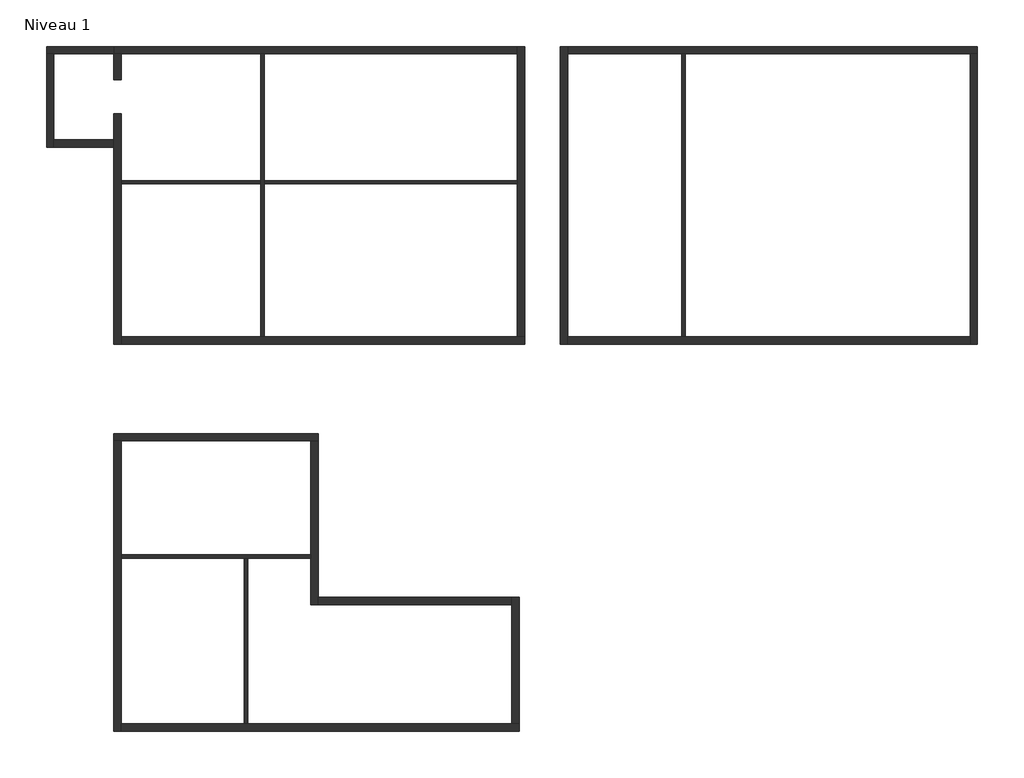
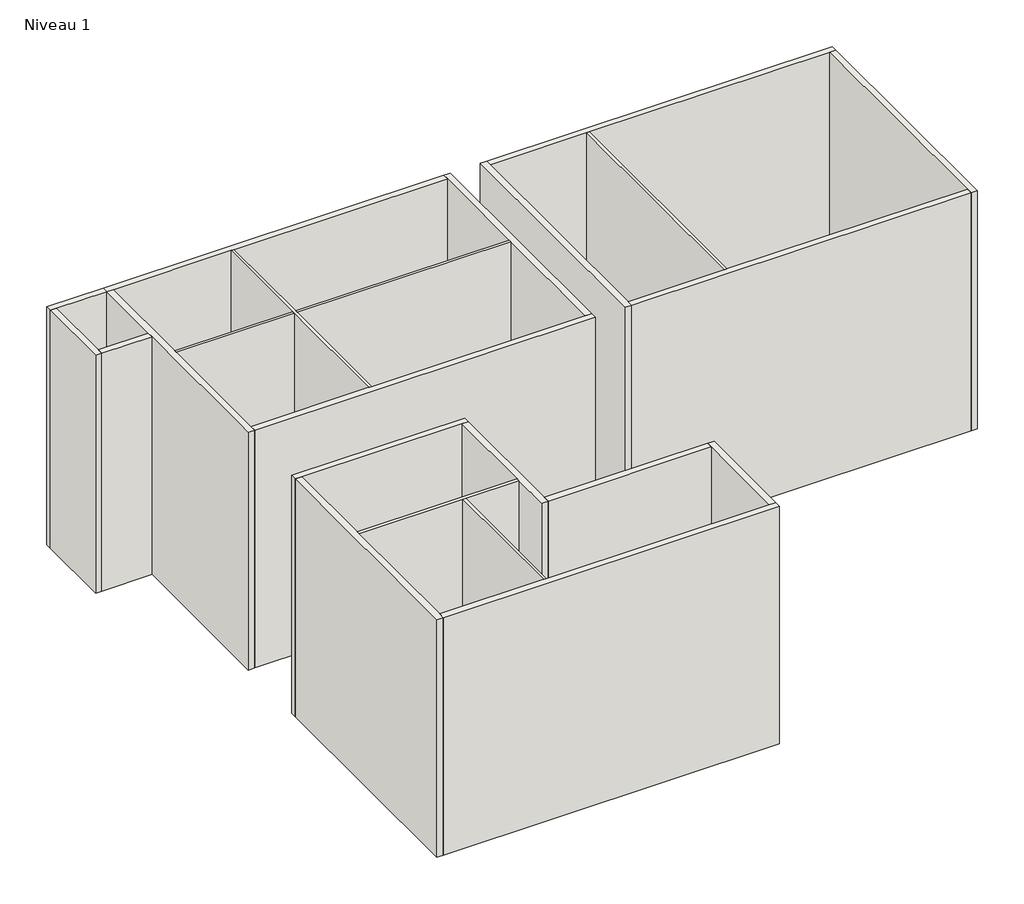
# One storey: 22 walls.
"""IFC4 building model written with IfcOpenShell, lengths in millimetres."""

from ifc_helpers import new_model, si_unit, origin, origin_with_axes, place, context, project, spatial, polyline, outline, extrude, faceted_brep, element, save

model = new_model("IFC4")

# Units and contexts
model_context = context("Model", 3, world=origin())
ifc_project = project(units=[si_unit("LENGTHUNIT", "METRE", prefix="MILLI")], contexts=[model_context])

# Site, building, storey
site = spatial("IfcSite", under=ifc_project)
building = spatial("IfcBuilding", under=site)
storey = spatial("IfcBuildingStorey", under=building, Name="Niveau 1", Elevation=0.0)

# Walls
placement = place(None, origin())
element("IfcWall", 1, ObjectType="Générique - 200 mm", at=placement, inside=storey, context=model_context, shape_type="Brep", body=[
    faceted_brep([(-11123.7969213, 1992.9831077, 0.0), (-10923.7969213, 1992.9831077, 0.0), (-7168.7969213, 1992.9831077, 0.0), (-7078.7969213, 1992.9831077, 0.0), (-278.7969213, 1992.9831077, 0.0), (-278.7969213, 1992.9831077, 8000.0), (-7078.7969213, 1992.9831077, 8000.0), (-7168.7969213, 1992.9831077, 8000.0), (-10923.7969213, 1992.9831077, 8000.0), (-11123.7969213, 1992.9831077, 8000.0), (-11123.7969213, 2192.9831077, 0.0), (-11123.7969213, 2192.9831077, 8000.0), (-278.7969213, 2192.9831077, 8000.0), (-278.7969213, 2192.9831077, 0.0)], [[[0, 1, 2, 3, 4, 5, 6, 7, 8, 9]], [[10, 11, 12, 13]], [[4, 3, 2, 1, 0, 10, 13]], [[9, 8, 7, 6, 5, 12, 11]], [[0, 9, 11, 10]], [[5, 4, 13, 12]]]),
])
element("IfcWall", 2, ObjectType="Générique - 200 mm", at=placement, inside=storey, context=model_context, shape_type="Brep", body=[
    faceted_brep([(-10923.7969213, 1300.4831077, 2134.0), (-10923.7969213, 1300.4831077, 0.0), (-10923.7969213, 1992.9831077, 0.0), (-10923.7969213, 1992.9831077, 8000.0), (-10923.7969213, -1407.0168923, 8000.0), (-10923.7969213, -1497.0168923, 8000.0), (-10923.7969213, -5607.0168923, 8000.0), (-10923.7969213, -5807.0168923, 8000.0), (-10923.7969213, -5807.0168923, 0.0), (-10923.7969213, -5607.0168923, 0.0), (-10923.7969213, -1497.0168923, 0.0), (-10923.7969213, -1407.0168923, 0.0), (-10923.7969213, 385.4831077, 0.0), (-10923.7969213, 385.4831077, 2134.0), (-11123.7969213, 1992.9831077, 0.0), (-11123.7969213, 1300.4831077, 0.0), (-11123.7969213, 1300.4831077, 2134.0), (-11123.7969213, 385.4831077, 2134.0), (-11123.7969213, 385.4831077, 0.0), (-11123.7969213, -307.0168923, 0.0), (-11123.7969213, -507.0168923, 0.0), (-11123.7969213, -5807.0168923, 0.0), (-11123.7969213, -5807.0168923, 8000.0), (-11123.7969213, -507.0168923, 8000.0), (-11123.7969213, -307.0168923, 8000.0), (-11123.7969213, 1992.9831077, 8000.0)], [[[0, 1, 2, 3, 4, 5, 6, 7, 8, 9, 10, 11, 12, 13]], [[14, 15, 16, 17, 18, 19, 20, 21, 22, 23, 24, 25]], [[2, 1, 15, 14]], [[12, 11, 10, 9, 8, 21, 20, 19, 18]], [[7, 6, 5, 4, 3, 25, 24, 23, 22]], [[8, 7, 22, 21]], [[3, 2, 14, 25]], [[18, 17, 13, 12]], [[16, 15, 1, 0]], [[17, 16, 0, 13]]]),
])
element("IfcWall", 3, ObjectType="Générique - 200 mm", at=placement, inside=storey, context=model_context, shape_type="Brep", body=[
    faceted_brep([(-78.7969213, -5607.0168923, 0.0), (-278.7969213, -5607.0168923, 0.0), (-7078.7969213, -5607.0168923, 0.0), (-7168.7969213, -5607.0168923, 0.0), (-10923.7969213, -5607.0168923, 0.0), (-10923.7969213, -5607.0168923, 8000.0), (-7168.7969213, -5607.0168923, 8000.0), (-7078.7969213, -5607.0168923, 8000.0), (-278.7969213, -5607.0168923, 8000.0), (-78.7969213, -5607.0168923, 8000.0), (-78.7969213, -5807.0168923, 0.0), (-78.7969213, -5807.0168923, 8000.0), (-10923.7969213, -5807.0168923, 8000.0), (-10923.7969213, -5807.0168923, 0.0)], [[[0, 1, 2, 3, 4, 5, 6, 7, 8, 9]], [[10, 11, 12, 13]], [[4, 3, 2, 1, 0, 10, 13]], [[9, 8, 7, 6, 5, 12, 11]], [[0, 9, 11, 10]], [[5, 4, 13, 12]]]),
])
element("IfcWall", 4, ObjectType="Générique - 200 mm", at=placement, inside=storey, context=model_context, shape_type="Brep", body=[
    faceted_brep([(-278.7969213, 2192.9831077, 0.0), (-278.7969213, 1992.9831077, 0.0), (-278.7969213, -1407.0168923, 0.0), (-278.7969213, -1497.0168923, 0.0), (-278.7969213, -5607.0168923, 0.0), (-278.7969213, -5607.0168923, 8000.0), (-278.7969213, -1497.0168923, 8000.0), (-278.7969213, -1407.0168923, 8000.0), (-278.7969213, 1992.9831077, 8000.0), (-278.7969213, 2192.9831077, 8000.0), (-78.7969213, 2192.9831077, 0.0), (-78.7969213, 2192.9831077, 8000.0), (-78.7969213, -5607.0168923, 8000.0), (-78.7969213, -5607.0168923, 0.0)], [[[0, 1, 2, 3, 4, 5, 6, 7, 8, 9]], [[10, 11, 12, 13]], [[4, 3, 2, 1, 0, 10, 13]], [[9, 8, 7, 6, 5, 12, 11]], [[0, 9, 11, 10]], [[5, 4, 13, 12]]]),
])
element("IfcWall", 5, ObjectType="Générique - Brique 90\xa0mm", at=placement, inside=storey, context=model_context, shape_type="Brep", body=[
    faceted_brep([(-7168.7969213, 1992.9831077, 0.0), (-7168.7969213, -1407.0168923, 0.0), (-7168.7969213, -1497.0168923, 0.0), (-7168.7969213, -5607.0168923, 0.0), (-7168.7969213, -5607.0168923, 8000.0), (-7168.7969213, -1497.0168923, 8000.0), (-7168.7969213, -1407.0168923, 8000.0), (-7168.7969213, 1992.9831077, 8000.0), (-7078.7969213, 1992.9831077, 0.0), (-7078.7969213, 1992.9831077, 8000.0), (-7078.7969213, -1407.0168923, 8000.0), (-7078.7969213, -1497.0168923, 8000.0), (-7078.7969213, -5607.0168923, 8000.0), (-7078.7969213, -5607.0168923, 0.0), (-7078.7969213, -1497.0168923, 0.0), (-7078.7969213, -1407.0168923, 0.0)], [[[0, 1, 2, 3, 4, 5, 6, 7]], [[8, 9, 10, 11, 12, 13, 14, 15]], [[3, 2, 1, 0, 8, 15, 14, 13]], [[7, 6, 5, 4, 12, 11, 10, 9]], [[4, 3, 13, 12]], [[0, 7, 9, 8]]]),
])
element("IfcWall", 6, ObjectType="Générique - Brique 90\xa0mm", at=placement, inside=storey, context=model_context, shape_type="SweptSolid", body=[
    extrude(outline(polyline([(-278.7969213, -1407.0168923), (-278.7969213, -1497.0168923), (-7078.7969213, -1497.0168923), (-7078.7969213, -1407.0168923), (-278.7969213, -1407.0168923)])), origin_with_axes(), (0.0, 0.0, 1.0), 8000.0),
    extrude(outline(polyline([(-10923.7969213, -1497.0168923), (-10923.7969213, -1407.0168923), (-7168.7969213, -1407.0168923), (-7168.7969213, -1497.0168923), (-10923.7969213, -1497.0168923)])), origin_with_axes(), (0.0, 0.0, 1.0), 8000.0),
])
element("IfcWall", 7, ObjectType="Générique - 200 mm", at=placement, inside=storey, context=model_context, shape_type="Brep", body=[
    faceted_brep([(-11123.7969213, -8402.2168923, 0.0), (-10923.7969213, -8402.2168923, 0.0), (-5823.7969213, -8402.2168923, 0.0), (-5623.7969213, -8402.2168923, 0.0), (-5623.7969213, -8402.2168923, 8000.0), (-5823.7969213, -8402.2168923, 8000.0), (-10923.7969213, -8402.2168923, 8000.0), (-11123.7969213, -8402.2168923, 8000.0), (-11123.7969213, -8202.2168923, 0.0), (-11123.7969213, -8202.2168923, 8000.0), (-5623.7969213, -8202.2168923, 8000.0), (-5623.7969213, -8202.2168923, 0.0)], [[[0, 1, 2, 3, 4, 5, 6, 7]], [[8, 9, 10, 11]], [[3, 2, 1, 0, 8, 11]], [[7, 6, 5, 4, 10, 9]], [[0, 7, 9, 8]], [[4, 3, 11, 10]]]),
])
element("IfcWall", 8, ObjectType="Générique - 200 mm", at=placement, inside=storey, context=model_context, shape_type="Brep", body=[
    faceted_brep([(-10923.7969213, -16202.2168923, 0.0), (-10923.7969213, -16002.2168923, 0.0), (-10923.7969213, -11547.2168923, 0.0), (-10923.7969213, -11457.2168923, 0.0), (-10923.7969213, -8402.2168923, 0.0), (-10923.7969213, -8402.2168923, 8000.0), (-10923.7969213, -11457.2168923, 8000.0), (-10923.7969213, -11547.2168923, 8000.0), (-10923.7969213, -16002.2168923, 8000.0), (-10923.7969213, -16202.2168923, 8000.0), (-11123.7969213, -16202.2168923, 0.0), (-11123.7969213, -16202.2168923, 8000.0), (-11123.7969213, -8402.2168923, 8000.0), (-11123.7969213, -8402.2168923, 0.0)], [[[0, 1, 2, 3, 4, 5, 6, 7, 8, 9]], [[10, 11, 12, 13]], [[4, 3, 2, 1, 0, 10, 13]], [[9, 8, 7, 6, 5, 12, 11]], [[0, 9, 11, 10]], [[5, 4, 13, 12]]]),
])
element("IfcWall", 9, ObjectType="Générique - 200 mm", at=placement, inside=storey, context=model_context, shape_type="Brep", body=[
    faceted_brep([(-223.7969213, -16002.2168923, 0.0), (-423.7969213, -16002.2168923, 0.0), (-7523.7969213, -16002.2168923, 0.0), (-7613.7969213, -16002.2168923, 0.0), (-10923.7969213, -16002.2168923, 0.0), (-10923.7969213, -16002.2168923, 8000.0), (-7613.7969213, -16002.2168923, 8000.0), (-7523.7969213, -16002.2168923, 8000.0), (-423.7969213, -16002.2168923, 8000.0), (-223.7969213, -16002.2168923, 8000.0), (-223.7969213, -16202.2168923, 0.0), (-223.7969213, -16202.2168923, 8000.0), (-10923.7969213, -16202.2168923, 8000.0), (-10923.7969213, -16202.2168923, 0.0)], [[[0, 1, 2, 3, 4, 5, 6, 7, 8, 9]], [[10, 11, 12, 13]], [[4, 3, 2, 1, 0, 10, 13]], [[9, 8, 7, 6, 5, 12, 11]], [[0, 9, 11, 10]], [[5, 4, 13, 12]]]),
])
element("IfcWall", 10, ObjectType="Générique - 200 mm", at=placement, inside=storey, context=model_context, shape_type="Brep", body=[
    faceted_brep([(-423.7969213, -12602.2168923, 0.0), (-423.7969213, -12802.2168923, 0.0), (-423.7969213, -16002.2168923, 0.0), (-423.7969213, -16002.2168923, 8000.0), (-423.7969213, -12802.2168923, 8000.0), (-423.7969213, -12602.2168923, 8000.0), (-223.7969213, -12602.2168923, 0.0), (-223.7969213, -12602.2168923, 8000.0), (-223.7969213, -16002.2168923, 8000.0), (-223.7969213, -16002.2168923, 0.0)], [[[0, 1, 2, 3, 4, 5]], [[6, 7, 8, 9]], [[2, 1, 0, 6, 9]], [[5, 4, 3, 8, 7]], [[3, 2, 9, 8]], [[0, 5, 7, 6]]]),
])
element("IfcWall", 11, ObjectType="Générique - 200 mm", at=placement, inside=storey, context=model_context, shape_type="Brep", body=[
    faceted_brep([(-5823.7969213, -8402.2168923, 0.0), (-5823.7969213, -11457.2168923, 0.0), (-5823.7969213, -11547.2168923, 0.0), (-5823.7969213, -12802.2168923, 0.0), (-5823.7969213, -12802.2168923, 8000.0), (-5823.7969213, -11547.2168923, 8000.0), (-5823.7969213, -11457.2168923, 8000.0), (-5823.7969213, -8402.2168923, 8000.0), (-5623.7969213, -8402.2168923, 0.0), (-5623.7969213, -8402.2168923, 8000.0), (-5623.7969213, -12602.2168923, 8000.0), (-5623.7969213, -12802.2168923, 8000.0), (-5623.7969213, -12802.2168923, 0.0), (-5623.7969213, -12602.2168923, 0.0)], [[[0, 1, 2, 3, 4, 5, 6, 7]], [[8, 9, 10, 11, 12, 13]], [[3, 2, 1, 0, 8, 13, 12]], [[7, 6, 5, 4, 11, 10, 9]], [[0, 7, 9, 8]], [[4, 3, 12, 11]]]),
])
element("IfcWall", 12, ObjectType="Générique - 200 mm", at=placement, inside=storey, context=model_context, shape_type="SweptSolid", body=[
    extrude(outline(polyline([(-423.7969213, -12802.2168923), (-5623.7969213, -12802.2168923), (-5623.7969213, -12602.2168923), (-423.7969213, -12602.2168923), (-423.7969213, -12802.2168923)])), origin_with_axes(), (0.0, 0.0, 1.0), 8000.0),
])
element("IfcWall", 13, ObjectType="Générique - Brique 90\xa0mm", at=placement, inside=storey, context=model_context, shape_type="Brep", body=[
    faceted_brep([(-10923.7969213, -11547.2168923, 0.0), (-7613.7969213, -11547.2168923, 0.0), (-7523.7969213, -11547.2168923, 0.0), (-5823.7969213, -11547.2168923, 0.0), (-5823.7969213, -11547.2168923, 8000.0), (-7523.7969213, -11547.2168923, 8000.0), (-7613.7969213, -11547.2168923, 8000.0), (-10923.7969213, -11547.2168923, 8000.0), (-10923.7969213, -11457.2168923, 0.0), (-10923.7969213, -11457.2168923, 8000.0), (-5823.7969213, -11457.2168923, 8000.0), (-5823.7969213, -11457.2168923, 0.0)], [[[0, 1, 2, 3, 4, 5, 6, 7]], [[8, 9, 10, 11]], [[3, 2, 1, 0, 8, 11]], [[7, 6, 5, 4, 10, 9]], [[0, 7, 9, 8]], [[4, 3, 11, 10]]]),
])
element("IfcWall", 14, ObjectType="Générique - Brique 90\xa0mm", at=placement, inside=storey, context=model_context, shape_type="SweptSolid", body=[
    extrude(outline(polyline([(-7613.7969213, -16002.2168923), (-7613.7969213, -11547.2168923), (-7523.7969213, -11547.2168923), (-7523.7969213, -16002.2168923), (-7613.7969213, -16002.2168923)])), origin_with_axes(), (0.0, 0.0, 1.0), 8000.0),
])
element("IfcWall", 15, ObjectType="Générique - 200 mm", at=placement, inside=storey, context=model_context, shape_type="Brep", body=[
    faceted_brep([(881.0030787, 2192.9831077, 0.0), (881.0030787, -5807.0168923, 0.0), (881.0030787, -5807.0168923, 8000.0), (881.0030787, 2192.9831077, 8000.0), (1081.0030787, 2192.9831077, 0.0), (1081.0030787, 2192.9831077, 8000.0), (1081.0030787, 1992.9831077, 8000.0), (1081.0030787, -5607.0168923, 8000.0), (1081.0030787, -5807.0168923, 8000.0), (1081.0030787, -5807.0168923, 0.0), (1081.0030787, -5607.0168923, 0.0), (1081.0030787, 1992.9831077, 0.0)], [[[0, 1, 2, 3]], [[4, 5, 6, 7, 8, 9, 10, 11]], [[1, 0, 4, 11, 10, 9]], [[3, 2, 8, 7, 6, 5]], [[0, 3, 5, 4]], [[2, 1, 9, 8]]]),
])
element("IfcWall", 16, ObjectType="Générique - 200 mm", at=placement, inside=storey, context=model_context, shape_type="Brep", body=[
    faceted_brep([(1081.0030787, 1992.9831077, 0.0), (4136.0030787, 1992.9831077, 0.0), (4226.0030787, 1992.9831077, 0.0), (11881.0030787, 1992.9831077, 0.0), (12081.0030787, 1992.9831077, 0.0), (12081.0030787, 1992.9831077, 8000.0), (11881.0030787, 1992.9831077, 8000.0), (4226.0030787, 1992.9831077, 8000.0), (4136.0030787, 1992.9831077, 8000.0), (1081.0030787, 1992.9831077, 8000.0), (1081.0030787, 2192.9831077, 0.0), (1081.0030787, 2192.9831077, 8000.0), (12081.0030787, 2192.9831077, 8000.0), (12081.0030787, 2192.9831077, 0.0)], [[[0, 1, 2, 3, 4, 5, 6, 7, 8, 9]], [[10, 11, 12, 13]], [[4, 3, 2, 1, 0, 10, 13]], [[9, 8, 7, 6, 5, 12, 11]], [[0, 9, 11, 10]], [[5, 4, 13, 12]]]),
])
element("IfcWall", 17, ObjectType="Générique - 200 mm", at=placement, inside=storey, context=model_context, shape_type="Brep", body=[
    faceted_brep([(11881.0030787, 1992.9831077, 0.0), (11881.0030787, -5607.0168923, 0.0), (11881.0030787, -5807.0168923, 0.0), (11881.0030787, -5807.0168923, 8000.0), (11881.0030787, -5607.0168923, 8000.0), (11881.0030787, 1992.9831077, 8000.0), (12081.0030787, 1992.9831077, 0.0), (12081.0030787, 1992.9831077, 8000.0), (12081.0030787, -5807.0168923, 8000.0), (12081.0030787, -5807.0168923, 0.0)], [[[0, 1, 2, 3, 4, 5]], [[6, 7, 8, 9]], [[2, 1, 0, 6, 9]], [[5, 4, 3, 8, 7]], [[0, 5, 7, 6]], [[3, 2, 9, 8]]]),
])
element("IfcWall", 18, ObjectType="Générique - 200 mm", at=placement, inside=storey, context=model_context, shape_type="Brep", body=[
    faceted_brep([(11881.0030787, -5607.0168923, 0.0), (4226.0030787, -5607.0168923, 0.0), (4136.0030787, -5607.0168923, 0.0), (1081.0030787, -5607.0168923, 0.0), (1081.0030787, -5607.0168923, 8000.0), (4136.0030787, -5607.0168923, 8000.0), (4226.0030787, -5607.0168923, 8000.0), (11881.0030787, -5607.0168923, 8000.0), (11881.0030787, -5807.0168923, 0.0), (11881.0030787, -5807.0168923, 8000.0), (1081.0030787, -5807.0168923, 8000.0), (1081.0030787, -5807.0168923, 0.0)], [[[0, 1, 2, 3, 4, 5, 6, 7]], [[8, 9, 10, 11]], [[3, 2, 1, 0, 8, 11]], [[7, 6, 5, 4, 10, 9]], [[4, 3, 11, 10]], [[0, 7, 9, 8]]]),
])
element("IfcWall", 19, ObjectType="Générique - Brique 90\xa0mm", at=placement, inside=storey, context=model_context, shape_type="SweptSolid", body=[
    extrude(outline(polyline([(4136.0030787, -5607.0168923), (4136.0030787, 1992.9831077), (4226.0030787, 1992.9831077), (4226.0030787, -5607.0168923), (4136.0030787, -5607.0168923)])), origin_with_axes(), (0.0, 0.0, 1.0), 8000.0),
])
element("IfcWall", 20, ObjectType="Générique - 200 mm", at=placement, inside=storey, context=model_context, shape_type="Brep", body=[
    faceted_brep([(-11123.7969213, 2192.9831077, 0.0), (-12923.7969213, 2192.9831077, 0.0), (-12923.7969213, 2192.9831077, 8000.0), (-11123.7969213, 2192.9831077, 8000.0), (-11123.7969213, 1992.9831077, 0.0), (-11123.7969213, 1992.9831077, 8000.0), (-12723.7969213, 1992.9831077, 8000.0), (-12923.7969213, 1992.9831077, 8000.0), (-12923.7969213, 1992.9831077, 0.0), (-12723.7969213, 1992.9831077, 0.0)], [[[0, 1, 2, 3]], [[4, 5, 6, 7, 8, 9]], [[1, 0, 4, 9, 8]], [[3, 2, 7, 6, 5]], [[0, 3, 5, 4]], [[2, 1, 8, 7]]]),
])
element("IfcWall", 21, ObjectType="Générique - 200 mm", at=placement, inside=storey, context=model_context, shape_type="Brep", body=[
    faceted_brep([(-12923.7969213, 1992.9831077, 0.0), (-12923.7969213, -507.0168923, 0.0), (-12923.7969213, -507.0168923, 8000.0), (-12923.7969213, 1992.9831077, 8000.0), (-12723.7969213, 1992.9831077, 0.0), (-12723.7969213, 1992.9831077, 8000.0), (-12723.7969213, -307.0168923, 8000.0), (-12723.7969213, -507.0168923, 8000.0), (-12723.7969213, -507.0168923, 0.0), (-12723.7969213, -307.0168923, 0.0)], [[[0, 1, 2, 3]], [[4, 5, 6, 7, 8, 9]], [[1, 0, 4, 9, 8]], [[3, 2, 7, 6, 5]], [[0, 3, 5, 4]], [[2, 1, 8, 7]]]),
])
element("IfcWall", 22, ObjectType="Générique - 200 mm", at=placement, inside=storey, context=model_context, shape_type="SweptSolid", body=[
    extrude(outline(polyline([(-11123.7969213, -507.0168923), (-12723.7969213, -507.0168923), (-12723.7969213, -307.0168923), (-11123.7969213, -307.0168923), (-11123.7969213, -507.0168923)])), origin_with_axes(), (0.0, 0.0, 1.0), 8000.0),
])

save(model, "model.ifc")
